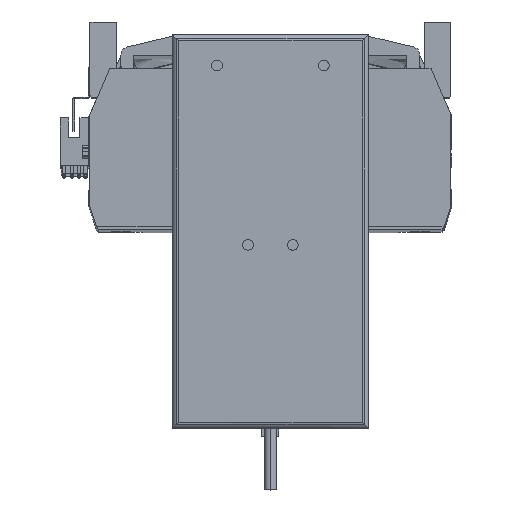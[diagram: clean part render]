
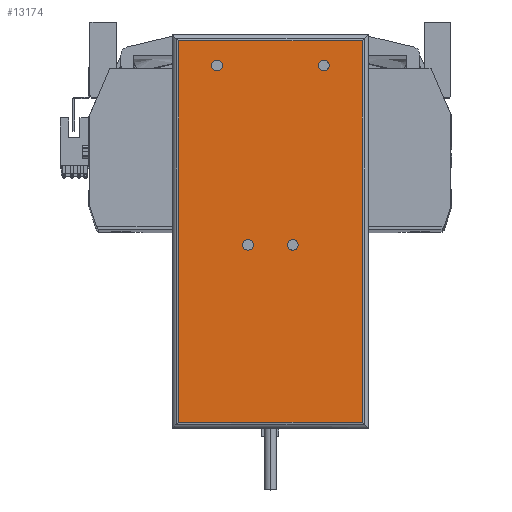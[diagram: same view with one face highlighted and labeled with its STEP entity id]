
A CAD part, top view. The second image highlights one B-rep face of the part: STEP entity #13174.
In plain terms, the highlighted planar face has unit normal (0, 0, 1) as drawn and (0, 0, -1) by its records, which use the part's own axes.
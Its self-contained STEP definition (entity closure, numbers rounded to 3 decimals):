
#812 = VERTEX_POINT ( 'NONE', #29382 ) ;
#1119 = CARTESIAN_POINT ( 'NONE',  ( -8., -6.25, 0. ) ) ;
#1174 = CARTESIAN_POINT ( 'NONE',  ( -46., -92.25, 0. ) ) ;
#1248 = LINE ( 'NONE', #16650, #45132 ) ;
#1673 = PLANE ( 'NONE',  #16066 ) ;
#1781 = CARTESIAN_POINT ( 'NONE',  ( 8., -6.25, 0. ) ) ;
#1924 = DIRECTION ( 'NONE',  ( -1., 0., 0. ) ) ;
#2103 = EDGE_LOOP ( 'NONE', ( #33653, #31452 ) ) ;
#2241 = DIRECTION ( 'NONE',  ( -1., 0., 0. ) ) ;
#2643 = DIRECTION ( 'NONE',  ( -1., 0., 0. ) ) ;
#2907 = CARTESIAN_POINT ( 'NONE',  ( -46., -89.25, 0. ) ) ;
#3218 = VECTOR ( 'NONE', #13744, 1000. ) ;
#4065 = DIRECTION ( 'NONE',  ( 0., 0., -1. ) ) ;
#4659 = ORIENTED_EDGE ( 'NONE', *, *, #19400, .F. ) ;
#4982 = DIRECTION ( 'NONE',  ( 0., 0., 1. ) ) ;
#5112 = CIRCLE ( 'NONE', #43718, 2.5 ) ;
#5146 = DIRECTION ( 'NONE',  ( 1., 0., 0. ) ) ;
#5361 = AXIS2_PLACEMENT_3D ( 'NONE', #34017, #10707, #11349 ) ;
#5448 = EDGE_CURVE ( 'NONE', #39212, #6904, #22714, .T. ) ;
#5651 = VECTOR ( 'NONE', #27536, 1000. ) ;
#6225 = FACE_BOUND ( 'NONE', #2103, .T. ) ;
#6227 = VERTEX_POINT ( 'NONE', #16695 ) ;
#6238 = EDGE_LOOP ( 'NONE', ( #4659, #42168 ) ) ;
#6904 = VERTEX_POINT ( 'NONE', #1781 ) ;
#7530 = VECTOR ( 'NONE', #10054, 1000. ) ;
#8151 = ORIENTED_EDGE ( 'NONE', *, *, #22036, .F. ) ;
#8938 = EDGE_CURVE ( 'NONE', #18076, #38748, #16520, .T. ) ;
#9474 = ORIENTED_EDGE ( 'NONE', *, *, #23641, .T. ) ;
#10054 = DIRECTION ( 'NONE',  ( -1., 0., 0. ) ) ;
#10707 = DIRECTION ( 'NONE',  ( 0., 0., -1. ) ) ;
#11349 = DIRECTION ( 'NONE',  ( -1., 0., 0. ) ) ;
#11671 = EDGE_CURVE ( 'NONE', #41239, #32995, #5112, .T. ) ;
#12828 = EDGE_CURVE ( 'NONE', #44500, #48351, #27533, .T. ) ;
#13174 = ADVANCED_FACE ( 'NONE', ( #23354, #30493, #34627, #20403, #6225 ), #1673, .F. ) ;
#13263 = CARTESIAN_POINT ( 'NONE',  ( -43., -92.25, 0. ) ) ;
#13282 = EDGE_CURVE ( 'NONE', #33282, #44500, #43554, .T. ) ;
#13744 = DIRECTION ( 'NONE',  ( 0., 1., 0. ) ) ;
#14468 = ORIENTED_EDGE ( 'NONE', *, *, #29426, .F. ) ;
#14493 = EDGE_CURVE ( 'NONE', #32995, #41239, #28593, .T. ) ;
#15002 = EDGE_CURVE ( 'NONE', #812, #28093, #44026, .T. ) ;
#15138 = DIRECTION ( 'NONE',  ( -1., 0., 0. ) ) ;
#15476 = ORIENTED_EDGE ( 'NONE', *, *, #12828, .T. ) ;
#15780 = AXIS2_PLACEMENT_3D ( 'NONE', #17196, #24501, #32478 ) ;
#16066 = AXIS2_PLACEMENT_3D ( 'NONE', #1174, #4982, #5146 ) ;
#16520 = CIRCLE ( 'NONE', #46150, 2.5 ) ;
#16650 = CARTESIAN_POINT ( 'NONE',  ( 43., -92.25, 0. ) ) ;
#16695 = CARTESIAN_POINT ( 'NONE',  ( 43., -89.25, 0. ) ) ;
#17196 = CARTESIAN_POINT ( 'NONE',  ( 25., 77.75, 0. ) ) ;
#17590 = CARTESIAN_POINT ( 'NONE',  ( -43., 89.25, 0. ) ) ;
#18076 = VERTEX_POINT ( 'NONE', #1119 ) ;
#18367 = DIRECTION ( 'NONE',  ( -1., 0., 0. ) ) ;
#18743 = EDGE_CURVE ( 'NONE', #6227, #33282, #45463, .T. ) ;
#19261 = CARTESIAN_POINT ( 'NONE',  ( 25., 77.75, 0. ) ) ;
#19400 = EDGE_CURVE ( 'NONE', #38748, #18076, #29375, .T. ) ;
#19469 = CARTESIAN_POINT ( 'NONE',  ( -10.5, -6.25, 0. ) ) ;
#19941 = AXIS2_PLACEMENT_3D ( 'NONE', #25403, #48292, #2241 ) ;
#19951 = EDGE_LOOP ( 'NONE', ( #8151, #22088 ) ) ;
#20403 = FACE_BOUND ( 'NONE', #38735, .T. ) ;
#20905 = ORIENTED_EDGE ( 'NONE', *, *, #18743, .T. ) ;
#21686 = DIRECTION ( 'NONE',  ( 0., 0., -1. ) ) ;
#22036 = EDGE_CURVE ( 'NONE', #6904, #39212, #42825, .T. ) ;
#22088 = ORIENTED_EDGE ( 'NONE', *, *, #5448, .F. ) ;
#22285 = CARTESIAN_POINT ( 'NONE',  ( 27.5, 77.75, 0. ) ) ;
#22714 = CIRCLE ( 'NONE', #19941, 2.5 ) ;
#23354 = FACE_OUTER_BOUND ( 'NONE', #32267, .T. ) ;
#23641 = EDGE_CURVE ( 'NONE', #48351, #6227, #1248, .T. ) ;
#23765 = DIRECTION ( 'NONE',  ( 0., 0., -1. ) ) ;
#24294 = DIRECTION ( 'NONE',  ( 0., -1., 0. ) ) ;
#24501 = DIRECTION ( 'NONE',  ( 0., 0., -1. ) ) ;
#24950 = DIRECTION ( 'NONE',  ( 0., 0., -1. ) ) ;
#25403 = CARTESIAN_POINT ( 'NONE',  ( 10.5, -6.25, 0. ) ) ;
#26204 = CARTESIAN_POINT ( 'NONE',  ( 43., 89.25, 0. ) ) ;
#27533 = LINE ( 'NONE', #42655, #5651 ) ;
#27536 = DIRECTION ( 'NONE',  ( 1., 0., 0. ) ) ;
#28093 = VERTEX_POINT ( 'NONE', #33267 ) ;
#28593 = CIRCLE ( 'NONE', #15780, 2.5 ) ;
#29328 = CIRCLE ( 'NONE', #5361, 2.5 ) ;
#29356 = AXIS2_PLACEMENT_3D ( 'NONE', #40925, #37422, #18367 ) ;
#29375 = CIRCLE ( 'NONE', #38833, 2.5 ) ;
#29382 = CARTESIAN_POINT ( 'NONE',  ( -22.5, 77.75, 0. ) ) ;
#29426 = EDGE_CURVE ( 'NONE', #28093, #812, #29328, .T. ) ;
#30493 = FACE_BOUND ( 'NONE', #6238, .T. ) ;
#31452 = ORIENTED_EDGE ( 'NONE', *, *, #11671, .F. ) ;
#32267 = EDGE_LOOP ( 'NONE', ( #9474, #20905, #48204, #15476 ) ) ;
#32478 = DIRECTION ( 'NONE',  ( -1., 0., 0. ) ) ;
#32581 = CARTESIAN_POINT ( 'NONE',  ( -25., 77.75, 0. ) ) ;
#32995 = VERTEX_POINT ( 'NONE', #41968 ) ;
#33267 = CARTESIAN_POINT ( 'NONE',  ( -27.5, 77.75, 0. ) ) ;
#33282 = VERTEX_POINT ( 'NONE', #35955 ) ;
#33653 = ORIENTED_EDGE ( 'NONE', *, *, #14493, .F. ) ;
#34017 = CARTESIAN_POINT ( 'NONE',  ( -25., 77.75, 0. ) ) ;
#34627 = FACE_BOUND ( 'NONE', #19951, .T. ) ;
#34887 = AXIS2_PLACEMENT_3D ( 'NONE', #32581, #24950, #1924 ) ;
#35955 = CARTESIAN_POINT ( 'NONE',  ( -43., -89.25, 0. ) ) ;
#37422 = DIRECTION ( 'NONE',  ( 0., 0., -1. ) ) ;
#37743 = ORIENTED_EDGE ( 'NONE', *, *, #15002, .F. ) ;
#38735 = EDGE_LOOP ( 'NONE', ( #14468, #37743 ) ) ;
#38748 = VERTEX_POINT ( 'NONE', #44485 ) ;
#38833 = AXIS2_PLACEMENT_3D ( 'NONE', #19469, #23765, #46329 ) ;
#39212 = VERTEX_POINT ( 'NONE', #40657 ) ;
#40657 = CARTESIAN_POINT ( 'NONE',  ( 13., -6.25, 0. ) ) ;
#40925 = CARTESIAN_POINT ( 'NONE',  ( 10.5, -6.25, 0. ) ) ;
#41239 = VERTEX_POINT ( 'NONE', #22285 ) ;
#41968 = CARTESIAN_POINT ( 'NONE',  ( 22.5, 77.75, 0. ) ) ;
#42168 = ORIENTED_EDGE ( 'NONE', *, *, #8938, .F. ) ;
#42655 = CARTESIAN_POINT ( 'NONE',  ( -46., 89.25, 0. ) ) ;
#42825 = CIRCLE ( 'NONE', #29356, 2.5 ) ;
#43554 = LINE ( 'NONE', #13263, #3218 ) ;
#43718 = AXIS2_PLACEMENT_3D ( 'NONE', #19261, #4065, #15138 ) ;
#44026 = CIRCLE ( 'NONE', #34887, 2.5 ) ;
#44485 = CARTESIAN_POINT ( 'NONE',  ( -13., -6.25, 0. ) ) ;
#44500 = VERTEX_POINT ( 'NONE', #17590 ) ;
#45132 = VECTOR ( 'NONE', #24294, 1000. ) ;
#45463 = LINE ( 'NONE', #2907, #7530 ) ;
#46150 = AXIS2_PLACEMENT_3D ( 'NONE', #48690, #21686, #2643 ) ;
#46329 = DIRECTION ( 'NONE',  ( -1., 0., 0. ) ) ;
#48204 = ORIENTED_EDGE ( 'NONE', *, *, #13282, .T. ) ;
#48292 = DIRECTION ( 'NONE',  ( 0., 0., -1. ) ) ;
#48351 = VERTEX_POINT ( 'NONE', #26204 ) ;
#48690 = CARTESIAN_POINT ( 'NONE',  ( -10.5, -6.25, 0. ) ) ;
